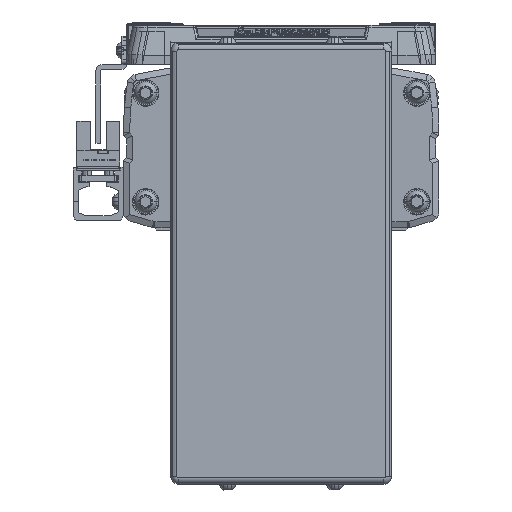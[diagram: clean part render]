
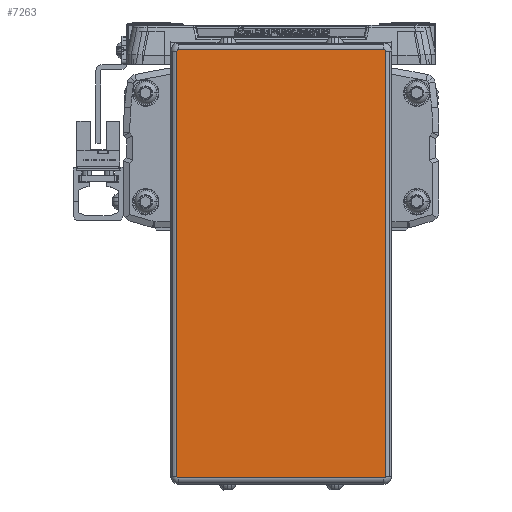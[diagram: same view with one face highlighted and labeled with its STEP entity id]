
A CAD part, left-side view. The second image highlights one B-rep face of the part: STEP entity #7263.
In plain terms, the highlighted planar face has unit normal (-1, 0, 0).
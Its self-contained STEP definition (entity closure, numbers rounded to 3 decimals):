
#7263=ADVANCED_FACE('',(#15133),#15134,.F.);
#15133=FACE_OUTER_BOUND('',#24113,.T.);
#15134=PLANE('',#24114);
#24113=EDGE_LOOP('',(#44782,#44783,#44784,#44785,#44786,#44787,#44788,#44789));
#24114=AXIS2_PLACEMENT_3D('',#44790,#44791,#44792);
#44782=ORIENTED_EDGE('',*,*,#58755,.T.);
#44783=ORIENTED_EDGE('',*,*,#58722,.T.);
#44784=ORIENTED_EDGE('',*,*,#58756,.T.);
#44785=ORIENTED_EDGE('',*,*,#58757,.T.);
#44786=ORIENTED_EDGE('',*,*,#53108,.T.);
#44787=ORIENTED_EDGE('',*,*,#53248,.T.);
#44788=ORIENTED_EDGE('',*,*,#58318,.T.);
#44789=ORIENTED_EDGE('',*,*,#57867,.T.);
#44790=CARTESIAN_POINT('',(-616.0,0.,-41.6));
#44791=DIRECTION('',(1.0,0.,0.));
#44792=DIRECTION('',(0.,0.,1.0));
#53108=EDGE_CURVE('',#64614,#64612,#64615,.T.);
#53248=EDGE_CURVE('',#64612,#64834,#64836,.T.);
#57867=EDGE_CURVE('',#71547,#71545,#71548,.T.);
#58318=EDGE_CURVE('',#64834,#71547,#72078,.T.);
#58722=EDGE_CURVE('',#72557,#72555,#72558,.T.);
#58755=EDGE_CURVE('',#71545,#72557,#72594,.T.);
#58756=EDGE_CURVE('',#72555,#72595,#72596,.T.);
#58757=EDGE_CURVE('',#72595,#64614,#72597,.T.);
#64612=VERTEX_POINT('',#80447);
#64614=VERTEX_POINT('',#80449);
#64615=LINE('',#80450,#80451);
#64834=VERTEX_POINT('',#80759);
#64836=CIRCLE('',#80761,0.5);
#71545=VERTEX_POINT('',#89940);
#71547=VERTEX_POINT('',#89942);
#71548=CIRCLE('',#89943,0.5);
#72078=LINE('',#90677,#90678);
#72555=VERTEX_POINT('',#91316);
#72557=VERTEX_POINT('',#91318);
#72558=CIRCLE('',#91319,0.5);
#72594=LINE('',#91391,#91392);
#72595=VERTEX_POINT('',#91393);
#72596=LINE('',#91394,#91395);
#72597=CIRCLE('',#91396,0.5);
#80447=CARTESIAN_POINT('',(-616.0,33.05,-109.));
#80449=CARTESIAN_POINT('',(-616.,33.05,25.8));
#80450=CARTESIAN_POINT('',(-616.0,33.05,-41.6));
#80451=VECTOR('',#96661,10.0);
#80759=CARTESIAN_POINT('',(-616.0,32.55,-109.5));
#80761=AXIS2_PLACEMENT_3D('',#96847,#96848,#96849);
#89940=CARTESIAN_POINT('',(-616.0,-33.05,-109.));
#89942=CARTESIAN_POINT('',(-616.0,-32.55,-109.5));
#89943=AXIS2_PLACEMENT_3D('',#102933,#102934,#102935);
#90677=CARTESIAN_POINT('',(-616.0,0.,-109.5));
#90678=VECTOR('',#103440,10.0);
#91316=CARTESIAN_POINT('',(-616.,-32.55,26.3));
#91318=CARTESIAN_POINT('',(-616.,-33.05,25.8));
#91319=AXIS2_PLACEMENT_3D('',#103910,#103911,#103912);
#91391=CARTESIAN_POINT('',(-616.,-33.05,-41.6));
#91392=VECTOR('',#103932,10.0);
#91393=CARTESIAN_POINT('',(-616.,32.55,26.3));
#91394=CARTESIAN_POINT('',(-616.,0.,26.3));
#91395=VECTOR('',#103933,10.0);
#91396=AXIS2_PLACEMENT_3D('',#103934,#103935,#103936);
#96661=DIRECTION('',(0.,0.,-1.0));
#96847=CARTESIAN_POINT('',(-616.0,32.55,-109.));
#96848=DIRECTION('',(-1.0,0.,0.));
#96849=DIRECTION('',(0.,0.707,-0.707));
#102933=CARTESIAN_POINT('',(-616.0,-32.55,-109.));
#102934=DIRECTION('',(-1.0,0.,0.));
#102935=DIRECTION('',(0.,-0.707,-0.707));
#103440=DIRECTION('',(0.,-1.0,0.));
#103910=CARTESIAN_POINT('',(-616.,-32.55,25.8));
#103911=DIRECTION('',(-1.0,0.,0.));
#103912=DIRECTION('',(0.,-0.707,0.707));
#103932=DIRECTION('',(0.,0.,1.0));
#103933=DIRECTION('',(0.,1.0,0.));
#103934=CARTESIAN_POINT('',(-616.,32.55,25.8));
#103935=DIRECTION('',(-1.0,0.,0.));
#103936=DIRECTION('',(0.,0.707,0.707));
